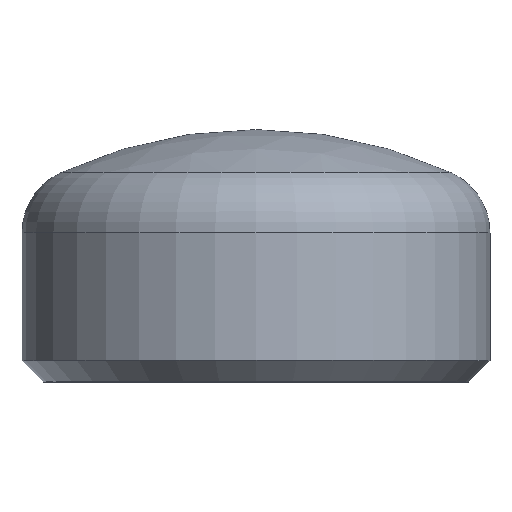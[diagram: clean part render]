
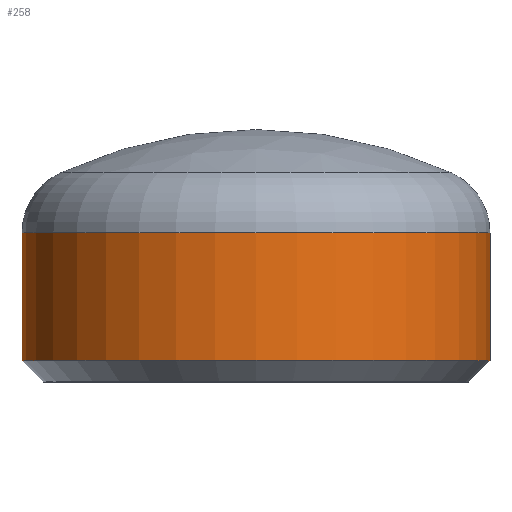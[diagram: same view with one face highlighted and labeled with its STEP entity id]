
A CAD part, top view. The second image highlights one B-rep face of the part: STEP entity #258.
In plain terms, the highlighted cylindrical face has radius 70.65 mm (diameter 141.3 mm), a partial arc.
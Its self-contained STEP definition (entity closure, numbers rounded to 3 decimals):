
#22 = CIRCLE ( 'NONE', #284, 70.65 ) ;
#34 = EDGE_CURVE ( 'NONE', #151, #71, #48, .T. ) ;
#48 = LINE ( 'NONE', #428, #126 ) ;
#52 = DIRECTION ( 'NONE',  ( 0., 1., 0. ) ) ;
#56 = CYLINDRICAL_SURFACE ( 'NONE', #292, 70.65 ) ;
#68 = ORIENTED_EDGE ( 'NONE', *, *, #34, .F. ) ;
#71 = VERTEX_POINT ( 'NONE', #148 ) ;
#109 = EDGE_CURVE ( 'NONE', #71, #218, #345, .T. ) ;
#112 = EDGE_CURVE ( 'NONE', #170, #218, #368, .T. ) ;
#126 = VECTOR ( 'NONE', #145, 1000. ) ;
#134 = FACE_OUTER_BOUND ( 'NONE', #413, .T. ) ;
#145 = DIRECTION ( 'NONE',  ( 0., 1., 0. ) ) ;
#148 = CARTESIAN_POINT ( 'NONE',  ( -70.65, 44.987, 0. ) ) ;
#151 = VERTEX_POINT ( 'NONE', #165 ) ;
#165 = CARTESIAN_POINT ( 'NONE',  ( -70.65, 6.45, 0. ) ) ;
#170 = VERTEX_POINT ( 'NONE', #372 ) ;
#178 = CARTESIAN_POINT ( 'NONE',  ( 0., 44.987, 0. ) ) ;
#186 = AXIS2_PLACEMENT_3D ( 'NONE', #178, #403, #223 ) ;
#192 = CARTESIAN_POINT ( 'NONE',  ( 70.65, 44.987, 0. ) ) ;
#199 = CARTESIAN_POINT ( 'NONE',  ( 0., 2817.965, 0. ) ) ;
#213 = EDGE_CURVE ( 'NONE', #151, #170, #22, .T. ) ;
#215 = CARTESIAN_POINT ( 'NONE',  ( 70.65, 2817.965, 0. ) ) ;
#218 = VERTEX_POINT ( 'NONE', #192 ) ;
#223 = DIRECTION ( 'NONE',  ( -1., 0., 0. ) ) ;
#243 = VECTOR ( 'NONE', #52, 1000. ) ;
#258 = ADVANCED_FACE ( 'NONE', ( #134 ), #56, .T. ) ;
#266 = DIRECTION ( 'NONE',  ( 0., 1., 0. ) ) ;
#274 = DIRECTION ( 'NONE',  ( -1., 0., 0. ) ) ;
#275 = ORIENTED_EDGE ( 'NONE', *, *, #109, .F. ) ;
#284 = AXIS2_PLACEMENT_3D ( 'NONE', #435, #266, #304 ) ;
#292 = AXIS2_PLACEMENT_3D ( 'NONE', #199, #338, #274 ) ;
#304 = DIRECTION ( 'NONE',  ( 1., 0., 0. ) ) ;
#338 = DIRECTION ( 'NONE',  ( 0., 1., 0. ) ) ;
#345 = CIRCLE ( 'NONE', #186, 70.65 ) ;
#368 = LINE ( 'NONE', #215, #243 ) ;
#372 = CARTESIAN_POINT ( 'NONE',  ( 70.65, 6.45, 0. ) ) ;
#385 = ORIENTED_EDGE ( 'NONE', *, *, #213, .T. ) ;
#403 = DIRECTION ( 'NONE',  ( 0., 1., 0. ) ) ;
#413 = EDGE_LOOP ( 'NONE', ( #385, #449, #275, #68 ) ) ;
#428 = CARTESIAN_POINT ( 'NONE',  ( -70.65, 2817.965, 0. ) ) ;
#435 = CARTESIAN_POINT ( 'NONE',  ( 0., 6.45, 0. ) ) ;
#449 = ORIENTED_EDGE ( 'NONE', *, *, #112, .T. ) ;
